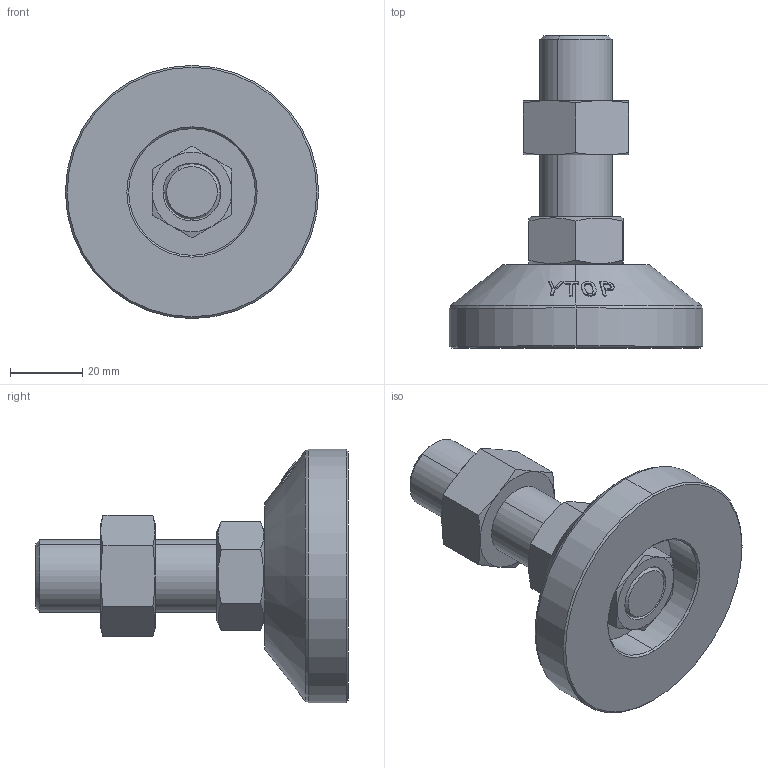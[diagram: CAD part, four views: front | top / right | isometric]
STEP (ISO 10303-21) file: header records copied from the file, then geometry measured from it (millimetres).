
FILE_DESCRIPTION (( 'STEP AP203' ), '1' );
FILE_NAME ('M-70-2050-S.STEP', '2020-09-10T06:58:33', ( '' ), ( '' ), 'SwSTEP 2.0', 'SolidWorks 2016', '' );
FILE_SCHEMA (( 'CONFIG_CONTROL_DESIGN' ));
Length unit declared in the file: millimetre
Products named in the file (5): 不锈钢双头螺杆M20系列_M20X50; 脚垫调节六角螺母M20; 脚垫锁紧六角薄螺母M16; M-70-2050-S; M-70-1褐菜 
Assembly tree (4 placements, depth 2):
  M-70-2050-S
    M-70-1褐菜 
    不锈钢双头螺杆M20系列_M20X50
    脚垫锁紧六角薄螺母M16
    脚垫调节六角螺母M20
Bounding box: 70 x 86.3 x 70 mm (x, y, z)
Volume: 96030.4 mm3; surface area: 23097.2 mm2
Topology: 4 solids, 4 shells, 143 faces, 333 edges, 206 vertices
Faces by surface type: cone 62, bspline 38, plane 29, cylinder 14
Entity records: 8656 total; most frequent: CARTESIAN_POINT 5285, ORIENTED_EDGE 666, DIRECTION 457, EDGE_CURVE 333, VERTEX_POINT 206, AXIS2_PLACEMENT_3D 196, B_SPLINE_CURVE_WITH_KNOTS 184, EDGE_LOOP 157
